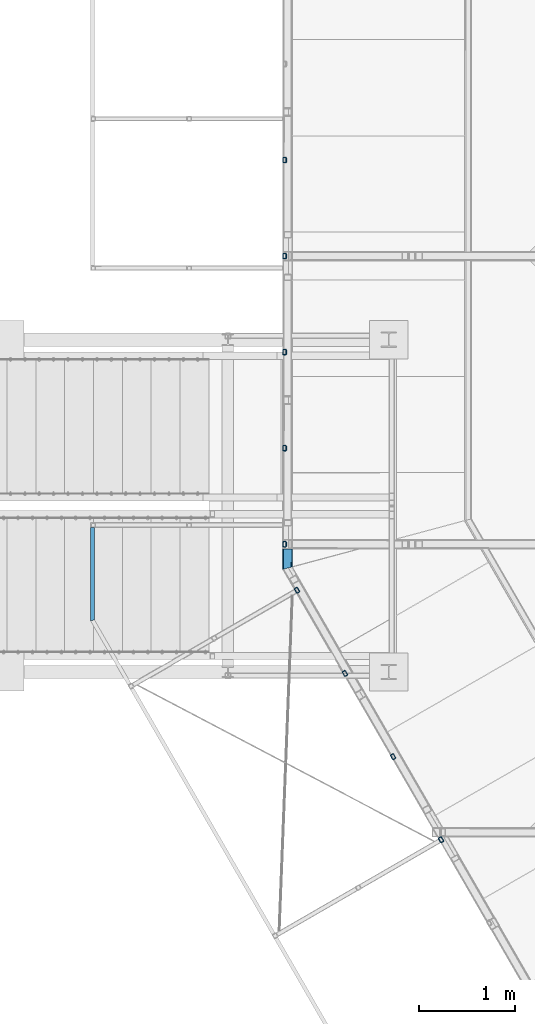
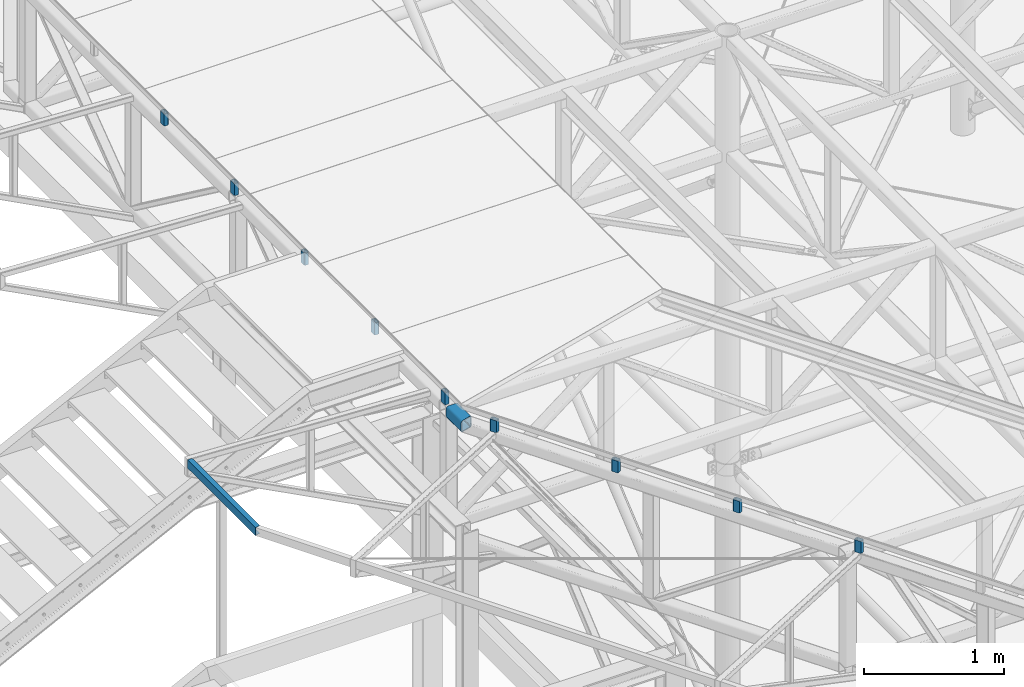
# One storey, part 22 of 132: 11 beams, 11 elements without a shape of their own.
"""IFC2X3 building model written with IfcOpenShell, lengths in millimetres."""

from ifc_helpers import new_model, si_unit, frame, origin_with_axes, origin_2d_with_axis, place, context, subcontext, project, spatial, hollow_rectangle, u_section, extrude, clip, halfspace, material, type_object, element, aggregate, save


model = new_model("IFC2X3")

# Units and contexts
model_context = context("Model", 3, precision=1e-05, world=origin_with_axes())
body_context = subcontext(model_context, "Body", "Model", "MODEL_VIEW")
ifc_project = project(units=[si_unit("LENGTHUNIT", "METRE", prefix="MILLI"), si_unit("AREAUNIT", "SQUARE_METRE"), si_unit("VOLUMEUNIT", "CUBIC_METRE"), si_unit("MASSUNIT", "GRAM", prefix="KILO"), si_unit("TIMEUNIT", "SECOND"), si_unit("PLANEANGLEUNIT", "RADIAN"), si_unit("SOLIDANGLEUNIT", "STERADIAN"), si_unit("THERMODYNAMICTEMPERATUREUNIT", "DEGREE_CELSIUS"), si_unit("LUMINOUSINTENSITYUNIT", "LUMEN")], contexts=[model_context])

# Site, building, storey
site_placement = place(None, origin_with_axes())
site = spatial("IfcSite", under=ifc_project, at=site_placement, Name="Budowa", CompositionType="ELEMENT")
building_placement = place(site_placement, origin_with_axes())
building = spatial("IfcBuilding", under=site, at=building_placement, Name="Undefined", CompositionType="ELEMENT")
storey_placement = place(building_placement, origin_with_axes())
storey = spatial("IfcBuildingStorey", under=building, at=storey_placement, Name="Undefined", CompositionType="ELEMENT", Elevation=0.0)

# Assembly, beam
assembly_1_placement = place(storey_placement, origin_with_axes())
assembly_1 = element("IfcElementAssembly", 1, at=assembly_1_placement, inside=storey, Name="Steel Assembly", AssemblyPlace="NOTDEFINED", PredefinedType="RIGID_FRAME")
ifc_material = material(Name="STEEL/S235")
beam_type_1 = type_object("IfcBeamType", Name="RHS60*40*6", PredefinedType="NOTDEFINED")
beam_1_placement = place(assembly_1_placement, frame((-29.913093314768, 13000.0507154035, 13983.9999999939), z_axis=(0.0, 1.0, 0.0), x_axis=(0.0, 0.0, -1.0)))
beam_1 = element("IfcBeam", 2, at=beam_1_placement, type_object=beam_type_1, material=ifc_material, Name="BEAM", ObjectType="RHS60*40*6", context=body_context, shape_type="SweptSolid", body=[
    extrude(hollow_rectangle(XDim=40.0, YDim=60.0, WallThickness=6.0, InnerFilletRadius=6.0, OuterFilletRadius=12.0, at=origin_2d_with_axis()), frame((103.986096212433, 0.0, 0.0), z_axis=(-1.0, 0.0, 0.0), x_axis=(0.0, -1.0, 0.0)), (0.0, 0.0, 1.0), 103.99),
])
aggregate(assembly_1, [beam_1])

assembly_2_placement = place(storey_placement, origin_with_axes())
assembly_2 = element("IfcElementAssembly", 3, at=assembly_2_placement, inside=storey, Name="Steel Assembly", AssemblyPlace="NOTDEFINED", PredefinedType="RIGID_FRAME")
beam_2_placement = place(assembly_2_placement, frame((-29.9130936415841, 9000.05071540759, 13983.9999999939), z_axis=(0.0, 1.0, 0.0), x_axis=(0.0, 0.0, -1.0)))
beam_2 = element("IfcBeam", 4, at=beam_2_placement, type_object=beam_type_1, material=ifc_material, Name="BEAM", ObjectType="RHS60*40*6", context=body_context, shape_type="SweptSolid", body=[
    extrude(hollow_rectangle(XDim=40.0, YDim=60.0, WallThickness=6.0, InnerFilletRadius=6.0, OuterFilletRadius=12.0, at=origin_2d_with_axis()), frame((103.986096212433, 0.0, 0.0), z_axis=(-1.0, 0.0, 0.0), x_axis=(0.0, -1.0, 0.0)), (0.0, 0.0, 1.0), 103.99),
])
aggregate(assembly_2, [beam_2])

assembly_3_placement = place(storey_placement, origin_with_axes())
assembly_3 = element("IfcElementAssembly", 5, at=assembly_3_placement, inside=storey, Name="Steel Assembly", AssemblyPlace="NOTDEFINED", PredefinedType="RIGID_FRAME")
beam_3_placement = place(assembly_3_placement, frame((-29.9130934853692, 10000.0507154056, 13983.9999999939), z_axis=(0.0, 1.0, 0.0), x_axis=(0.0, 0.0, -1.0)))
beam_3 = element("IfcBeam", 6, at=beam_3_placement, type_object=beam_type_1, material=ifc_material, Name="BEAM", ObjectType="RHS60*40*6", context=body_context, shape_type="SweptSolid", body=[
    extrude(hollow_rectangle(XDim=40.0, YDim=60.0, WallThickness=6.0, InnerFilletRadius=6.0, OuterFilletRadius=12.0, at=origin_2d_with_axis()), frame((103.986096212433, 0.0, 0.0), z_axis=(-1.0, 0.0, 0.0), x_axis=(0.0, -1.0, 0.0)), (0.0, 0.0, 1.0), 103.99),
])
aggregate(assembly_3, [beam_3])

assembly_4_placement = place(storey_placement, origin_with_axes())
assembly_4 = element("IfcElementAssembly", 7, at=assembly_4_placement, inside=storey, Name="Steel Assembly", AssemblyPlace="NOTDEFINED", PredefinedType="RIGID_FRAME")
beam_4_placement = place(assembly_4_placement, frame((-29.9130933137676, 11000.0507154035, 13983.9999999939), z_axis=(0.0, 1.0, 0.0), x_axis=(0.0, 0.0, -1.0)))
beam_4 = element("IfcBeam", 8, at=beam_4_placement, type_object=beam_type_1, material=ifc_material, Name="BEAM", ObjectType="RHS60*40*6", context=body_context, shape_type="SweptSolid", body=[
    extrude(hollow_rectangle(XDim=40.0, YDim=60.0, WallThickness=6.0, InnerFilletRadius=6.0, OuterFilletRadius=12.0, at=origin_2d_with_axis()), frame((103.986096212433, 0.0, 0.0), z_axis=(-1.0, 0.0, 0.0), x_axis=(0.0, -1.0, 0.0)), (0.0, 0.0, 1.0), 103.99),
])
aggregate(assembly_4, [beam_4])

assembly_5_placement = place(storey_placement, origin_with_axes())
assembly_5 = element("IfcElementAssembly", 9, at=assembly_5_placement, inside=storey, Name="Steel Assembly", AssemblyPlace="NOTDEFINED", PredefinedType="RIGID_FRAME")
beam_5_placement = place(assembly_5_placement, frame((-29.913093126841, 12000.0507154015, 13983.9999999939), z_axis=(0.0, 1.0, 0.0), x_axis=(0.0, 0.0, -1.0)))
beam_5 = element("IfcBeam", 10, at=beam_5_placement, type_object=beam_type_1, material=ifc_material, Name="BEAM", ObjectType="RHS60*40*6", context=body_context, shape_type="SweptSolid", body=[
    extrude(hollow_rectangle(XDim=40.0, YDim=60.0, WallThickness=6.0, InnerFilletRadius=6.0, OuterFilletRadius=12.0, at=origin_2d_with_axis()), frame((103.986096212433, 0.0, 0.0), z_axis=(-1.0, 0.0, 0.0), x_axis=(0.0, -1.0, 0.0)), (0.0, 0.0, 1.0), 103.99),
])
aggregate(assembly_5, [beam_5])

assembly_6_placement = place(storey_placement, origin_with_axes())
assembly_6 = element("IfcElementAssembly", 11, at=assembly_6_placement, inside=storey, Name="Steel Assembly", AssemblyPlace="NOTDEFINED", PredefinedType="RIGID_FRAME")
beam_6_placement = place(assembly_6_placement, frame((98.436276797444, 8520.5580845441, 13984.0000000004), z_axis=(0.5000000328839, -0.866025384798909, 0.0), x_axis=(0.0, 0.0, -1.0)))
beam_6 = element("IfcBeam", 12, at=beam_6_placement, type_object=beam_type_1, material=ifc_material, Name="BEAM", ObjectType="RHS60*40*6", context=body_context, shape_type="SweptSolid", body=[
    extrude(hollow_rectangle(XDim=40.0, YDim=60.0, WallThickness=6.0, InnerFilletRadius=6.0, OuterFilletRadius=12.0, at=origin_2d_with_axis()), frame((103.597744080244, 0.0, 0.0), z_axis=(-1.0, 0.0, 0.0), x_axis=(0.0, -1.0, 0.0)), (0.0, 0.0, 1.0), 103.6),
])
aggregate(assembly_6, [beam_6])

assembly_7_placement = place(storey_placement, origin_with_axes())
assembly_7 = element("IfcElementAssembly", 13, at=assembly_7_placement, inside=storey, Name="Steel Assembly", AssemblyPlace="NOTDEFINED", PredefinedType="RIGID_FRAME")
beam_7_placement = place(assembly_7_placement, frame((598.436309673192, 7654.53269974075, 13984.0000000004), z_axis=(0.5000000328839, -0.866025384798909, 0.0), x_axis=(0.0, 0.0, -1.0)))
beam_7 = element("IfcBeam", 14, at=beam_7_placement, type_object=beam_type_1, material=ifc_material, Name="BEAM", ObjectType="RHS60*40*6", context=body_context, shape_type="SweptSolid", body=[
    extrude(hollow_rectangle(XDim=40.0, YDim=60.0, WallThickness=6.0, InnerFilletRadius=6.0, OuterFilletRadius=12.0, at=origin_2d_with_axis()), frame((103.597744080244, 0.0, 0.0), z_axis=(-1.0, 0.0, 0.0), x_axis=(0.0, -1.0, 0.0)), (0.0, 0.0, 1.0), 103.6),
])
aggregate(assembly_7, [beam_7])

assembly_8_placement = place(storey_placement, origin_with_axes())
assembly_8 = element("IfcElementAssembly", 15, at=assembly_8_placement, inside=storey, Name="Steel Assembly", AssemblyPlace="NOTDEFINED", PredefinedType="RIGID_FRAME")
beam_8_placement = place(assembly_8_placement, frame((1098.43634254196, 6788.50731493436, 13984.0000000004), z_axis=(0.5000000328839, -0.866025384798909, 0.0), x_axis=(0.0, 0.0, -1.0)))
beam_8 = element("IfcBeam", 16, at=beam_8_placement, type_object=beam_type_1, material=ifc_material, Name="BEAM", ObjectType="RHS60*40*6", context=body_context, shape_type="SweptSolid", body=[
    extrude(hollow_rectangle(XDim=40.0, YDim=60.0, WallThickness=6.0, InnerFilletRadius=6.0, OuterFilletRadius=12.0, at=origin_2d_with_axis()), frame((103.597744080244, 0.0, 0.0), z_axis=(-1.0, 0.0, 0.0), x_axis=(0.0, -1.0, 0.0)), (0.0, 0.0, 1.0), 103.6),
])
aggregate(assembly_8, [beam_8])

assembly_9_placement = place(storey_placement, origin_with_axes())
assembly_9 = element("IfcElementAssembly", 17, at=assembly_9_placement, inside=storey, Name="Steel Assembly", AssemblyPlace="NOTDEFINED", PredefinedType="RIGID_FRAME")
beam_9_placement = place(assembly_9_placement, frame((1598.43637540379, 5922.48193012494, 13984.0000000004), z_axis=(0.5000000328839, -0.866025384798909, 0.0), x_axis=(0.0, 0.0, -1.0)))
beam_9 = element("IfcBeam", 18, at=beam_9_placement, type_object=beam_type_1, material=ifc_material, Name="BEAM", ObjectType="RHS60*40*6", context=body_context, shape_type="SweptSolid", body=[
    extrude(hollow_rectangle(XDim=40.0, YDim=60.0, WallThickness=6.0, InnerFilletRadius=6.0, OuterFilletRadius=12.0, at=origin_2d_with_axis()), frame((103.597744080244, 0.0, 0.0), z_axis=(-1.0, 0.0, 0.0), x_axis=(0.0, -1.0, 0.0)), (0.0, 0.0, 1.0), 103.6),
])
aggregate(assembly_9, [beam_9])

assembly_10_placement = place(storey_placement, origin_with_axes())
assembly_10 = element("IfcElementAssembly", 19, at=assembly_10_placement, inside=storey, Name="Steel Assembly", AssemblyPlace="NOTDEFINED", PredefinedType="RIGID_FRAME")
beam_type_2 = type_object("IfcBeamType", Name="C70*40*4", PredefinedType="NOTDEFINED")
beam_10_placement = place(assembly_10_placement, frame((-2030.0003815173, 9175.00000004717, 13945.0050191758), z_axis=(0.0, 0.0, -1.0), x_axis=(0.0, -1.0, 0.0)))
beam_10 = element("IfcBeam", 20, at=beam_10_placement, type_object=beam_type_2, material=ifc_material, Name="BEAM", ObjectType="C70*40*4", context=body_context, shape_type="Clipping", body=[
    clip(extrude(u_section(Depth=70.0, FlangeWidth=40.0, WebThickness=4.0, FlangeThickness=4.0, FilletRadius=6.0, at=origin_2d_with_axis()), frame((973.049900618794, 0.0, 0.0), z_axis=(-1.0, 0.0, 0.0), x_axis=(0.0, -1.0, 0.0)), (0.0, 0.0, 1.0), 973.05), halfspace(frame((962.279304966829, -20.0000280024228, 0.000292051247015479), z_axis=(-0.965931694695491, 0.258797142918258, 2.0703771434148e-07), x_axis=(0.0, 0.0, -1.0)), True)),
])
aggregate(assembly_10, [beam_10])

assembly_11_placement = place(storey_placement, origin_with_axes())
assembly_11 = element("IfcElementAssembly", 21, at=assembly_11_placement, inside=storey, Name="Steel Assembly", AssemblyPlace="NOTDEFINED", PredefinedType="RIGID_FRAME")
beam_type_3 = type_object("IfcBeamType", Name="SHS100*8", PredefinedType="NOTDEFINED")
beam_11_placement = place(assembly_11_placement, frame((-0.000107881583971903, 8737.71781926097, 13830.0), z_axis=(-1.0, 0.0, 0.0), x_axis=(0.0, 1.0, 0.0)))
beam_11 = element("IfcBeam", 22, at=beam_11_placement, type_object=beam_type_3, material=ifc_material, Name="BEAM", ObjectType="SHS100*8", context=body_context, shape_type="Clipping", body=[
    clip(extrude(hollow_rectangle(XDim=100.0, YDim=100.0, WallThickness=8.0, InnerFilletRadius=8.0, OuterFilletRadius=16.0, at=origin_2d_with_axis()), frame((212.282180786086, 0.0, 0.0), z_axis=(-1.0, 0.0, 0.0), x_axis=(0.0, -1.0, 0.0)), (0.0, 0.0, 1.0), 212.42), halfspace(frame((26.7949198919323, 0.0, -50.0000000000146), z_axis=(0.965925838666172, 0.0, 0.258818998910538), x_axis=(0.0, -1.0, 0.0)), True)),
])
aggregate(assembly_11, [beam_11])

save(model, "model.ifc")
